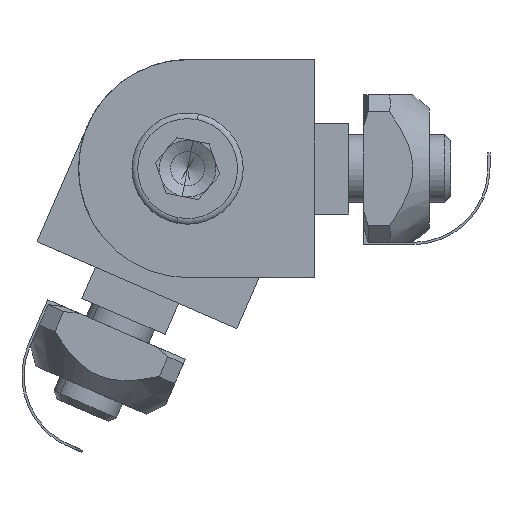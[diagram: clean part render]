
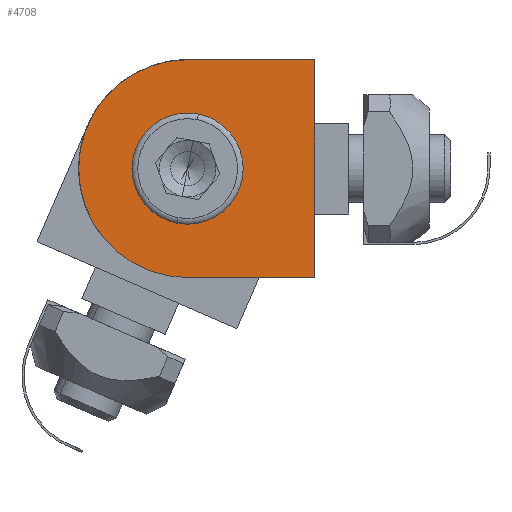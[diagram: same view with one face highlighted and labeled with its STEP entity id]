
A CAD part, left-side view. The second image highlights one B-rep face of the part: STEP entity #4708.
In plain terms, the highlighted planar face has unit normal (-1, 0, 0).
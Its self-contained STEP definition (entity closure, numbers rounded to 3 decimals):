
#18 = DIRECTION ( 'NONE',  ( 0., 0., -1. ) ) ;
#79 = LINE ( 'NONE', #1264, #528 ) ;
#166 = ORIENTED_EDGE ( 'NONE', *, *, #3962, .F. ) ;
#247 = EDGE_CURVE ( 'NONE', #3508, #3783, #885, .T. ) ;
#270 = DIRECTION ( 'NONE',  ( 1., 0., 0. ) ) ;
#286 = CIRCLE ( 'NONE', #2302, 4.9 ) ;
#346 = LINE ( 'NONE', #4625, #551 ) ;
#528 = VECTOR ( 'NONE', #18, 1000. ) ;
#551 = VECTOR ( 'NONE', #1032, 1000. ) ;
#752 = DIRECTION ( 'NONE',  ( 0., 0., 1. ) ) ;
#885 = CIRCLE ( 'NONE', #4063, 4.9 ) ;
#913 = ORIENTED_EDGE ( 'NONE', *, *, #3179, .F. ) ;
#1032 = DIRECTION ( 'NONE',  ( 0., 1., 0. ) ) ;
#1098 = CARTESIAN_POINT ( 'NONE',  ( 0., 11.2, 0. ) ) ;
#1199 = CARTESIAN_POINT ( 'NONE',  ( 0., 11.2, 0. ) ) ;
#1264 = CARTESIAN_POINT ( 'NONE',  ( 0., 0., 9.6 ) ) ;
#1302 = AXIS2_PLACEMENT_3D ( 'NONE', #1199, #270, #3197 ) ;
#1440 = EDGE_CURVE ( 'NONE', #3948, #3106, #4209, .T. ) ;
#1466 = AXIS2_PLACEMENT_3D ( 'NONE', #1643, #4436, #3545 ) ;
#1482 = DIRECTION ( 'NONE',  ( 0., -1., 0. ) ) ;
#1537 = PLANE ( 'NONE',  #1302 ) ;
#1552 = DIRECTION ( 'NONE',  ( -1., 0., 0. ) ) ;
#1642 = VECTOR ( 'NONE', #1482, 1000. ) ;
#1643 = CARTESIAN_POINT ( 'NONE',  ( 0., 11.2, 0. ) ) ;
#1889 = CARTESIAN_POINT ( 'NONE',  ( 0., 11.2, 4.9 ) ) ;
#2011 = VERTEX_POINT ( 'NONE', #4374 ) ;
#2023 = DIRECTION ( 'NONE',  ( -1., 0., 0. ) ) ;
#2190 = EDGE_LOOP ( 'NONE', ( #166, #4632 ) ) ;
#2302 = AXIS2_PLACEMENT_3D ( 'NONE', #1098, #2023, #3593 ) ;
#2310 = EDGE_CURVE ( 'NONE', #3106, #2011, #79, .T. ) ;
#2661 = CARTESIAN_POINT ( 'NONE',  ( 0., 11.2, -4.9 ) ) ;
#2746 = FACE_BOUND ( 'NONE', #2190, .T. ) ;
#2903 = VERTEX_POINT ( 'NONE', #4662 ) ;
#2914 = EDGE_LOOP ( 'NONE', ( #4950, #4964, #3172, #913 ) ) ;
#3106 = VERTEX_POINT ( 'NONE', #3916 ) ;
#3172 = ORIENTED_EDGE ( 'NONE', *, *, #1440, .F. ) ;
#3177 = CARTESIAN_POINT ( 'NONE',  ( 0., 11.2, 9.6 ) ) ;
#3179 = EDGE_CURVE ( 'NONE', #2903, #3948, #4566, .T. ) ;
#3197 = DIRECTION ( 'NONE',  ( 0., 0., -1. ) ) ;
#3508 = VERTEX_POINT ( 'NONE', #2661 ) ;
#3545 = DIRECTION ( 'NONE',  ( 0., 0., -1. ) ) ;
#3593 = DIRECTION ( 'NONE',  ( 0., 0., 1. ) ) ;
#3783 = VERTEX_POINT ( 'NONE', #1889 ) ;
#3791 = CARTESIAN_POINT ( 'NONE',  ( 0., 11.2, 9.6 ) ) ;
#3898 = FACE_OUTER_BOUND ( 'NONE', #2914, .T. ) ;
#3916 = CARTESIAN_POINT ( 'NONE',  ( 0., 0., 9.6 ) ) ;
#3948 = VERTEX_POINT ( 'NONE', #3177 ) ;
#3962 = EDGE_CURVE ( 'NONE', #3783, #3508, #286, .T. ) ;
#4063 = AXIS2_PLACEMENT_3D ( 'NONE', #5137, #1552, #752 ) ;
#4209 = LINE ( 'NONE', #3791, #1642 ) ;
#4224 = EDGE_CURVE ( 'NONE', #2011, #2903, #346, .T. ) ;
#4374 = CARTESIAN_POINT ( 'NONE',  ( 0., 0., -9.6 ) ) ;
#4436 = DIRECTION ( 'NONE',  ( 1., 0., 0. ) ) ;
#4566 = CIRCLE ( 'NONE', #1466, 9.6 ) ;
#4625 = CARTESIAN_POINT ( 'NONE',  ( 0., 0., -9.6 ) ) ;
#4632 = ORIENTED_EDGE ( 'NONE', *, *, #247, .F. ) ;
#4662 = CARTESIAN_POINT ( 'NONE',  ( 0., 11.2, -9.6 ) ) ;
#4708 = ADVANCED_FACE ( 'NONE', ( #2746, #3898 ), #1537, .F. ) ;
#4950 = ORIENTED_EDGE ( 'NONE', *, *, #4224, .F. ) ;
#4964 = ORIENTED_EDGE ( 'NONE', *, *, #2310, .F. ) ;
#5137 = CARTESIAN_POINT ( 'NONE',  ( 0., 11.2, 0. ) ) ;
